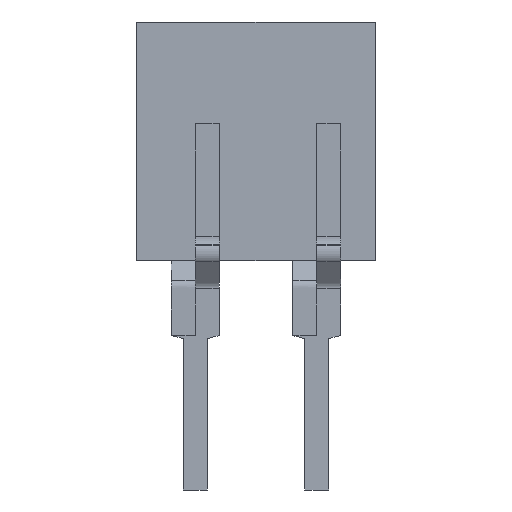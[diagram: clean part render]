
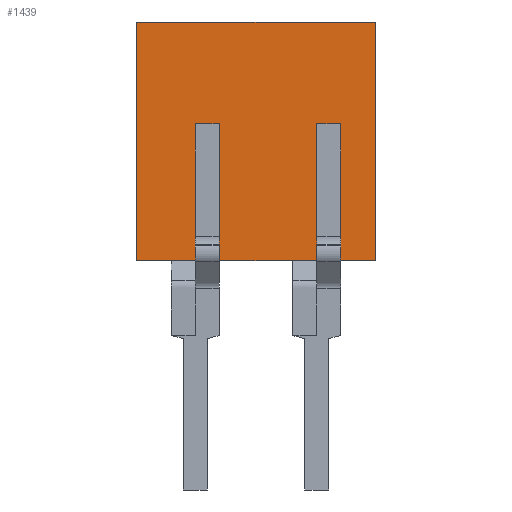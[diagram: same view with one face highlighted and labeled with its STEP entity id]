
A CAD part, left-side view. The second image highlights one B-rep face of the part: STEP entity #1439.
In plain terms, the highlighted planar face has unit normal (-1, 0, 0).
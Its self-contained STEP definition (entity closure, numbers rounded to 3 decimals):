
#165=FACE_OUTER_BOUND('',#241,.T.);
#241=EDGE_LOOP('',(#1305,#1306,#1307,#1308));
#389=LINE('',#2439,#547);
#393=LINE('',#2447,#551);
#396=LINE('',#2453,#554);
#399=LINE('',#2458,#557);
#547=VECTOR('',#1937,10.);
#551=VECTOR('',#1943,10.);
#554=VECTOR('',#1948,10.);
#557=VECTOR('',#1953,10.);
#687=VERTEX_POINT('',#2437);
#688=VERTEX_POINT('',#2438);
#691=VERTEX_POINT('',#2446);
#693=VERTEX_POINT('',#2452);
#889=EDGE_CURVE('',#687,#688,#389,.T.);
#893=EDGE_CURVE('',#687,#691,#393,.T.);
#896=EDGE_CURVE('',#691,#693,#396,.T.);
#899=EDGE_CURVE('',#693,#688,#399,.T.);
#1305=ORIENTED_EDGE('',*,*,#893,.T.);
#1306=ORIENTED_EDGE('',*,*,#896,.T.);
#1307=ORIENTED_EDGE('',*,*,#899,.T.);
#1308=ORIENTED_EDGE('',*,*,#889,.F.);
#1363=PLANE('',#1573);
#1439=ADVANCED_FACE('',(#165),#1363,.T.);
#1573=AXIS2_PLACEMENT_3D('',#2460,#1955,#1956);
#1937=DIRECTION('',(0.,-1.,0.));
#1943=DIRECTION('',(0.,0.,-1.));
#1948=DIRECTION('',(0.,-1.,0.));
#1953=DIRECTION('',(0.,0.,1.));
#1955=DIRECTION('center_axis',(-1.,0.,0.));
#1956=DIRECTION('ref_axis',(0.,0.,1.));
#2437=CARTESIAN_POINT('',(-0.1,4.02,9.802));
#2438=CARTESIAN_POINT('',(-0.1,-0.98,9.802));
#2439=CARTESIAN_POINT('',(-0.1,4.02,9.802));
#2446=CARTESIAN_POINT('',(-0.1,4.02,4.802));
#2447=CARTESIAN_POINT('',(-0.1,4.02,9.802));
#2452=CARTESIAN_POINT('',(-0.1,-0.98,4.802));
#2453=CARTESIAN_POINT('',(-0.1,4.02,4.802));
#2458=CARTESIAN_POINT('',(-0.1,-0.98,4.802));
#2460=CARTESIAN_POINT('Origin',(-0.1,-0.981,
7.302));
